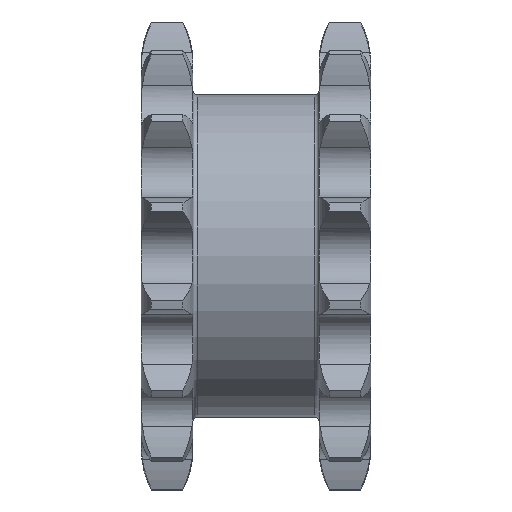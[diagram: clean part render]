
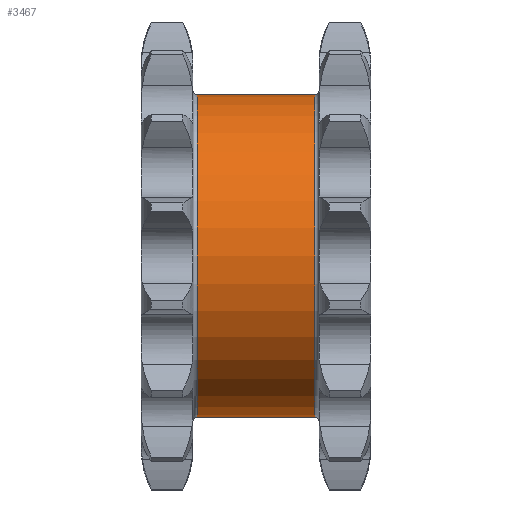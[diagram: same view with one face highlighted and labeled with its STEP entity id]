
A CAD part, front view. The second image highlights one B-rep face of the part: STEP entity #3467.
In plain terms, the highlighted cylindrical face has radius 22.5 mm (diameter 45 mm), a full revolution.
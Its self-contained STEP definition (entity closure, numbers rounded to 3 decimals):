
#85=FACE_BOUND('',#660,.T.);
#275=CIRCLE('',#3841,22.5);
#276=CIRCLE('',#3843,22.5);
#463=FACE_OUTER_BOUND('',#659,.T.);
#659=EDGE_LOOP('',(#3077));
#660=EDGE_LOOP('',(#3078));
#1517=VERTEX_POINT('',#7024);
#1518=VERTEX_POINT('',#7027);
#2061=EDGE_CURVE('',#1517,#1517,#275,.T.);
#2062=EDGE_CURVE('',#1518,#1518,#276,.T.);
#3077=ORIENTED_EDGE('',*,*,#2061,.T.);
#3078=ORIENTED_EDGE('',*,*,#2062,.F.);
#3282=CYLINDRICAL_SURFACE('',#3842,22.5);
#3467=ADVANCED_FACE('',(#463,#85),#3282,.T.);
#3841=AXIS2_PLACEMENT_3D('',#7025,#4705,#4706);
#3842=AXIS2_PLACEMENT_3D('',#7026,#4707,#4708);
#3843=AXIS2_PLACEMENT_3D('',#7028,#4709,#4710);
#4705=DIRECTION('center_axis',(-1.,0.,0.));
#4706=DIRECTION('ref_axis',(0.,0.,1.));
#4707=DIRECTION('center_axis',(-1.,0.,0.));
#4708=DIRECTION('ref_axis',(0.,-1.,0.));
#4709=DIRECTION('center_axis',(-1.,0.,0.));
#4710=DIRECTION('ref_axis',(0.,0.,1.));
#7024=CARTESIAN_POINT('',(12.811,-8.714,0.));
#7025=CARTESIAN_POINT('Origin',(12.811,13.786,0.));
#7026=CARTESIAN_POINT('Origin',(4.611,13.786,0.));
#7027=CARTESIAN_POINT('',(-3.589,-8.714,0.));
#7028=CARTESIAN_POINT('Origin',(-3.589,13.786,0.));
